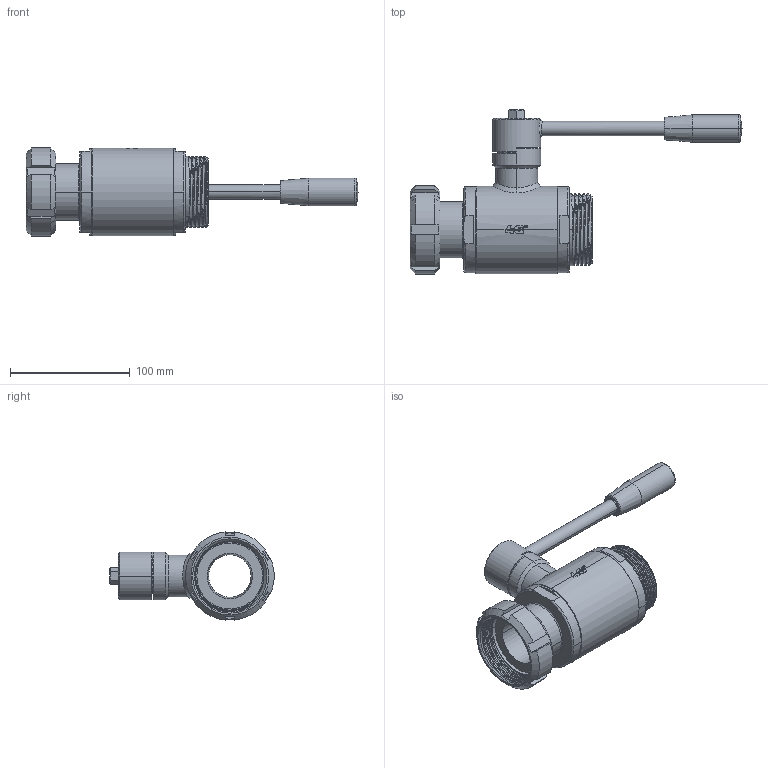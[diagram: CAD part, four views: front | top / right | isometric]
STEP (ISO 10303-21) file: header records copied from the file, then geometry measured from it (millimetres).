
FILE_DESCRIPTION((''),'2;1');
FILE_NAME('10014563410_SW0001','2025-07-16T14:06:37',('tecnico2'),('CDM Tecnoconsulting'),'CREO PARAMETRIC BY PTC INC, 2024063','CREO PARAMETRIC BY PTC INC, 2024063','');
FILE_SCHEMA(('CONFIG_CONTROL_DESIGN','SHAPE_APPEARANCE_LAYERS_GROUPS'));
Products named in the file (1): 10014563410_SW0001
Bounding box: 277 x 136.87 x 73.57 mm (x, y, z)
Volume: 418451.7 mm3; surface area: 121931.8 mm2
Topology: 1 solids, 1 shells, 879 faces, 2425 edges, 1559 vertices
Faces by surface type: plane 392, cylinder 175, extrusion 111, cone 92, bspline 77, torus 26, sphere 6
Entity records: 64031 total; most frequent: CARTESIAN_POINT 33205, ORIENTED_EDGE 4814, DIRECTION 3642, PRESENTATION_STYLE_ASSIGNMENT 2780, STYLED_ITEM 2463, CURVE_STYLE 2462, EDGE_CURVE 2407, VERTEX_POINT 1559
